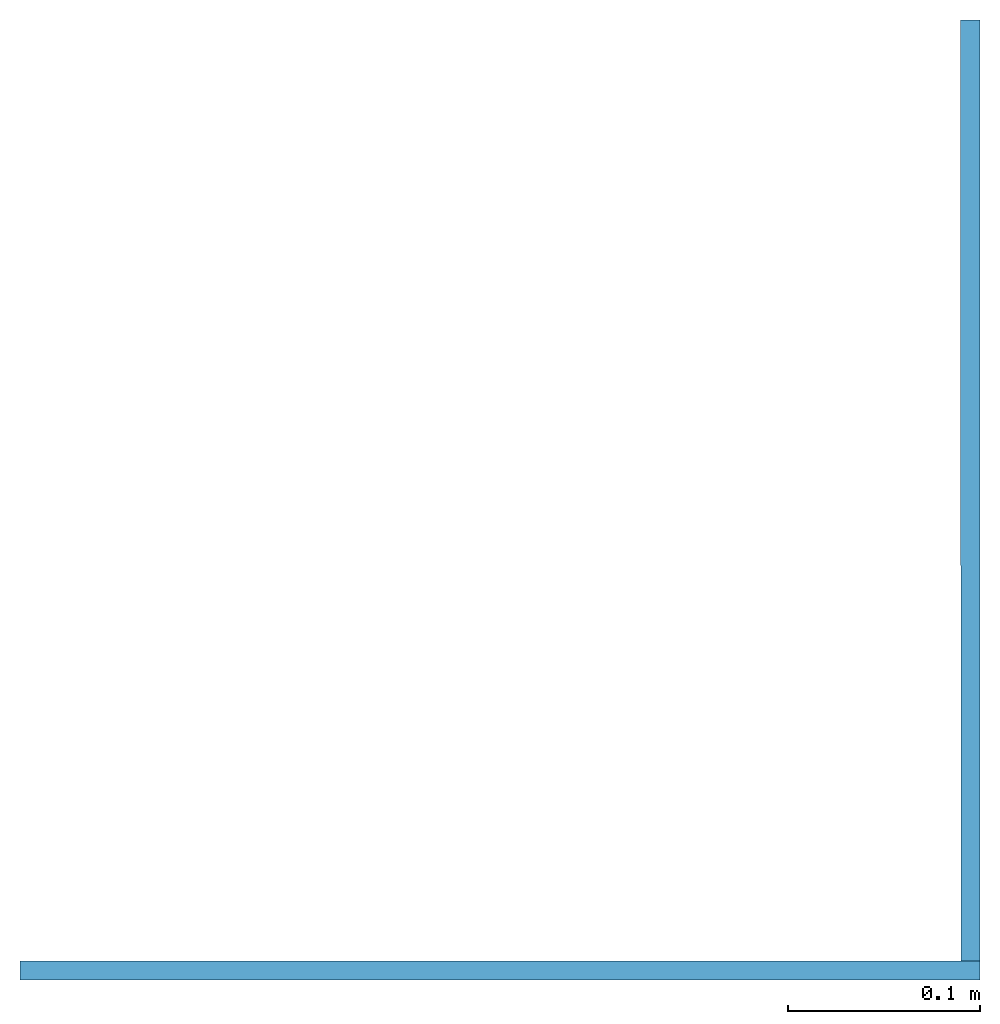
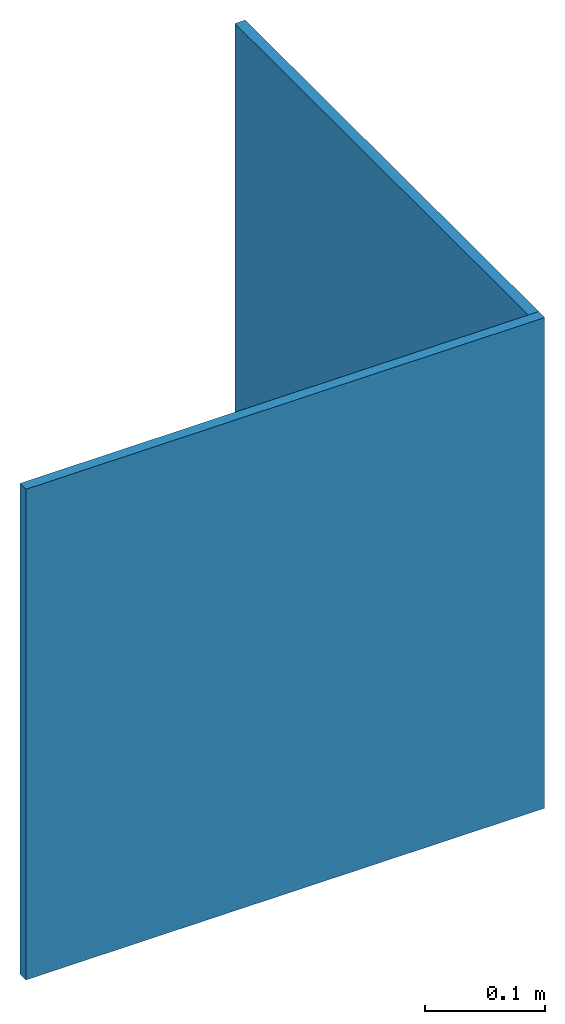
# One storey: 2 walls.
"""IFC4 building model written with IfcOpenShell, lengths in millimetres."""

from ifc_helpers import new_model, entity, si_unit, converted_unit, derived_unit, direction, frame, origin_with_axes, place, context, subcontext, project, spatial, line, indexed_curve, outline, extrude, material, layer, layer_set, layer_usage, type_object, element, save


model = new_model("IFC4")

# Units and contexts
model_context = context("Model", 3, precision=0.01, world=origin_with_axes(), true_north=direction((0.0, 1.0)))
body_context = subcontext(model_context, "Body", "Model", "MODEL_VIEW")
ifc_project = project(units=[si_unit("LENGTHUNIT", "METRE", prefix="MILLI"), si_unit("AREAUNIT", "SQUARE_METRE"), si_unit("VOLUMEUNIT", "CUBIC_METRE"), converted_unit("PLANEANGLEUNIT", "DEGREE", entity("IfcPlaneAngleMeasure", 0.0174532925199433), si_unit("PLANEANGLEUNIT", "RADIAN"), dimensions=[0, 0, 0, 0, 0, 0, 0]), converted_unit("TIMEUNIT", "Year", entity("IfcTimeMeasure", 31557600.0), si_unit("TIMEUNIT", "SECOND"), dimensions=[0, 0, 1, 0, 0, 0, 0]), si_unit("MASSUNIT", "GRAM", prefix="KILO"), si_unit("THERMODYNAMICTEMPERATUREUNIT", "DEGREE_CELSIUS"), si_unit("LUMINOUSINTENSITYUNIT", "LUMEN"), si_unit("ENERGYUNIT", "JOULE", prefix="MEGA"), derived_unit("THERMALCONDUCTANCEUNIT", [(si_unit("POWERUNIT", "WATT"), 1), (si_unit("LENGTHUNIT", "METRE"), -1), (si_unit("THERMODYNAMICTEMPERATUREUNIT", "KELVIN"), -1)]), derived_unit("SPECIFICHEATCAPACITYUNIT", [(si_unit("ENERGYUNIT", "JOULE"), 1), (si_unit("MASSUNIT", "GRAM", prefix="KILO"), -1), (si_unit("THERMODYNAMICTEMPERATUREUNIT", "KELVIN"), -1)]), derived_unit("MASSDENSITYUNIT", [(si_unit("MASSUNIT", "GRAM", prefix="KILO"), 1), (si_unit("VOLUMEUNIT", "CUBIC_METRE"), -1)])], contexts=[model_context])

# Site, building, storey
site_placement = place(None, origin_with_axes())
site = spatial("IfcSite", under=ifc_project, at=site_placement, Name="Exteriér", CompositionType="ELEMENT")
building_placement = place(site_placement, origin_with_axes())
building = spatial("IfcBuilding", under=site, at=building_placement, Name="Univerzitní lezecké centrum", CompositionType="ELEMENT")
storey_placement = place(building_placement, origin_with_axes())
storey = spatial("IfcBuildingStorey", under=building, at=storey_placement, Name="1.NP", CompositionType="ELEMENT", Elevation=0.0)

# Walls
ifc_material = material(Name="Hliník")
ifc_layer = layer(ifc_material, 10.0, ventilated="UNKNOWN", Name="Hliník")
ifc_layer_set = layer_set([ifc_layer], Name="Hliník 10")
ifc_layer_usage_1 = layer_usage(ifc_layer_set, "AXIS2", "NEGATIVE", 10.0)
wall_type = type_object("IfcWallType", Name="Hliník 10", PredefinedType="NOTDEFINED")
wall_1_placement = place(storey_placement, frame((0.01424247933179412, -6.761626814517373e-07, 0.0), z_axis=(0.0, 0.0, 1.0), x_axis=(-0.0001205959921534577, 0.9999999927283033, 0.0)))
element("IfcWall", 1, at=wall_1_placement, inside=storey, type_object=wall_type, material=ifc_layer_usage_1, PredefinedType="NOTDEFINED", context=body_context, shape_type="SweptSolid", body=[
    extrude(outline(indexed_curve([(10.00000007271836, 0.0), (499.9999999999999, 0.0), (499.9999999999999, 10.0), (10.0012060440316, 10.0)], segments=[line(1, 2, 3, 4, 1)])), origin_with_axes(), (0.0, 0.0, 1.0), 500.0),
])
ifc_layer_usage_2 = layer_usage(ifc_layer_set, "AXIS2", "POSITIVE", -10.0)
wall_2_placement = place(storey_placement, frame((200.0000009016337, -9.038057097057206e-07, 0.0), z_axis=(0.0, 0.0, 1.0), x_axis=(-1.0, 1.138296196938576e-09, 0.0)))
element("IfcWall", 2, at=wall_2_placement, inside=storey, type_object=wall_type, material=ifc_layer_usage_2, PredefinedType="NOTDEFINED", context=body_context, shape_type="SweptSolid", body=[
    extrude(outline(indexed_curve([(200.00095041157, -10.0), (699.985758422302, -10.0), (699.985758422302, 0.0), (200.0000009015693, 0.0)], segments=[line(1, 2, 3, 4, 1)])), origin_with_axes(), (0.0, 0.0, 1.0), 500.0),
])

save(model, "model.ifc")
